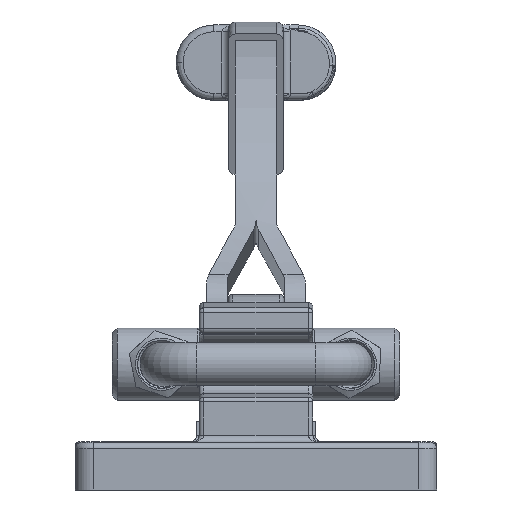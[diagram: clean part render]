
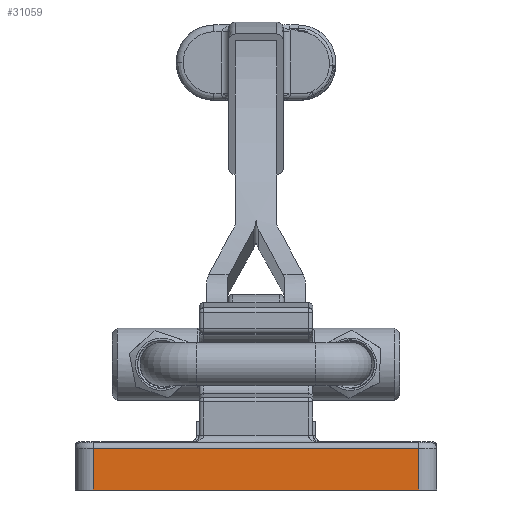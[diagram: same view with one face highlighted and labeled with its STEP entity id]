
A CAD part, left-side view. The second image highlights one B-rep face of the part: STEP entity #31059.
In plain terms, the highlighted planar face has unit normal (-1, 0, 0).
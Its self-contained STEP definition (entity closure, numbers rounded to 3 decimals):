
#2039=PLANE('',#34122);
#3735=FACE_OUTER_BOUND('',#5523,.T.);
#5523=EDGE_LOOP('',(#28571,#28572,#28573,#28574));
#8090=LINE('',#91023,#10638);
#8091=LINE('',#91026,#10639);
#8093=LINE('',#91032,#10641);
#8094=LINE('',#91033,#10642);
#10638=VECTOR('',#42367,1000.);
#10639=VECTOR('',#42370,1000.);
#10641=VECTOR('',#42376,1000.);
#10642=VECTOR('',#42377,1000.);
#14963=VERTEX_POINT('',#91009);
#14969=VERTEX_POINT('',#91021);
#14970=VERTEX_POINT('',#91025);
#14972=VERTEX_POINT('',#91031);
#19512=EDGE_CURVE('',#14963,#14969,#8090,.T.);
#19513=EDGE_CURVE('',#14970,#14963,#8091,.T.);
#19516=EDGE_CURVE('',#14972,#14969,#8093,.T.);
#19517=EDGE_CURVE('',#14972,#14970,#8094,.T.);
#28571=ORIENTED_EDGE('',*,*,#19516,.F.);
#28572=ORIENTED_EDGE('',*,*,#19517,.T.);
#28573=ORIENTED_EDGE('',*,*,#19513,.T.);
#28574=ORIENTED_EDGE('',*,*,#19512,.T.);
#31059=ADVANCED_FACE('',(#3735),#2039,.F.);
#34122=AXIS2_PLACEMENT_3D('',#91030,#42374,#42375);
#42367=DIRECTION('',(0.,-1.,0.));
#42370=DIRECTION('',(0.,0.,-1.));
#42374=DIRECTION('center_axis',(1.,0.,0.));
#42375=DIRECTION('ref_axis',(0.,0.,-1.));
#42376=DIRECTION('',(0.,0.,-1.));
#42377=DIRECTION('',(0.,1.,0.));
#91009=CARTESIAN_POINT('',(0.,75.4,0.));
#91021=CARTESIAN_POINT('',(0.,4.,0.));
#91023=CARTESIAN_POINT('',(0.,75.4,0.));
#91025=CARTESIAN_POINT('',(0.,75.4,9.));
#91026=CARTESIAN_POINT('',(0.,75.4,10.5));
#91030=CARTESIAN_POINT('Origin',(0.,75.4,10.5));
#91031=CARTESIAN_POINT('',(0.,4.,9.));
#91032=CARTESIAN_POINT('',(0.,4.,10.5));
#91033=CARTESIAN_POINT('',(0.,75.4,9.));
